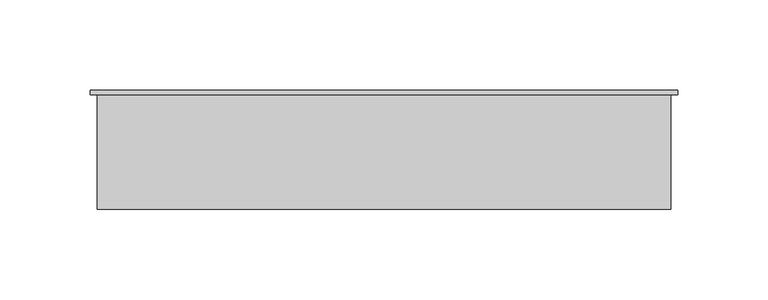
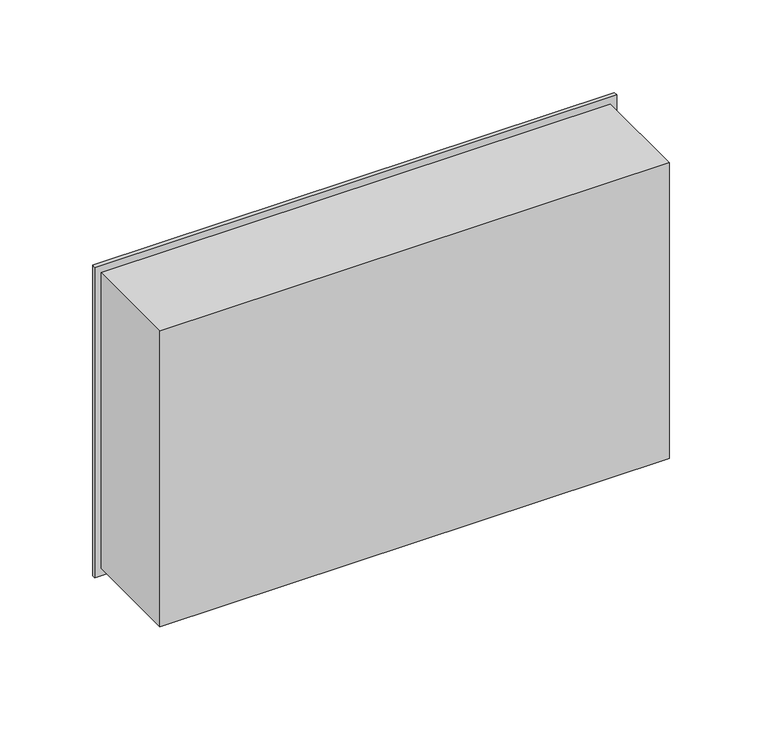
"""IFC4 building model written with IfcOpenShell, lengths in millimetres: proxy geometry, BYRNE^M2X_7 WINDOW-MOVING MODEL."""

from ifc_helpers import new_model, si_unit, point, frame, frame_2d, origin, place, context, project, spatial, polyline, circle_curve, trimmed, segment, composite_curve, outline, extrude, faceted_brep, source, transform, mapped, element, save


def generic_models_c3284a41(model_context):
    return source(origin(), model_context, "Body", "SolidModel", [
        extrude(outline(composite_curve([segment(polyline([(65.88125, 30.4270833), (64.29375, 30.4270833), (64.29375, 32.8083333)]), True, "CONTINUOUS"), segment(trimmed(circle_curve(frame_2d((46.0375, 101.6)), 71.1729167), [point((64.29375, 32.8083333))], [point((27.78125, 32.8083333))], False, "CARTESIAN"), True, "CONTINUOUS"), segment(polyline([(27.78125, 32.8083333), (27.78125, 30.4270833), (24.60625, 30.4270833), (24.60625, 79.6395833), (65.88125, 79.6395833), (65.88125, 30.4270833)]), True, "CONTINUOUS")], self_intersect=False)), frame((28.971875, 0.0, 0.0), z_axis=(1.0, 0.0, 0.0), x_axis=(0.0, 1.0, 0.0)), (0.0, 0.0, 1.0), 260.35),
        extrude(outline(composite_curve([segment(polyline([(64.29375, 164.8354167), (65.88125, 164.8354167), (65.88125, 115.6229167), (24.60625, 115.6229167), (24.60625, 164.8354167), (27.78125, 164.8354167), (27.78125, 162.4541667)]), True, "CONTINUOUS"), segment(trimmed(circle_curve(frame_2d((46.0375, 93.6625)), 71.1729167), [point((27.78125, 162.4541667))], [point((64.29375, 162.4541667))], False, "CARTESIAN"), True, "CONTINUOUS"), segment(polyline([(64.29375, 162.4541667), (64.29375, 164.8354167)]), True, "CONTINUOUS")], self_intersect=False)), frame((28.575, 0.0, 0.0), z_axis=(1.0, 0.0, 0.0), x_axis=(0.0, 1.0, 0.0)), (0.0, 0.0, 1.0), 260.35),
        faceted_brep([(321.46875, 65.88125, -4.7625), (321.46875, 63.5, -4.7625), (-3.96875, 63.5, -4.7625), (-3.96875, 65.88125, -4.7625), (321.46875, 65.88125, 200.025), (321.46875, 63.5, 200.025), (-3.96875, 65.88125, 200.025), (-3.96875, 63.5, 200.025), (0.0, 0.0, 0.0), (317.5, 0.0, 0.0), (317.5, 0.0, 195.2625), (0.0, 0.0, 195.2625), (0.0, 63.5, 195.2625), (0.0, 63.5, 0.0), (317.5, 63.5, 195.2625), (317.5, 63.5, 0.0)], [[[0, 1, 2, 3]], [[1, 0, 4, 5]], [[5, 4, 6, 7]], [[8, 9, 10, 11]], [[0, 3, 6, 4]], [[3, 2, 7, 6]], [[12, 13, 8, 11]], [[14, 12, 11, 10]], [[15, 14, 10, 9]], [[13, 15, 9, 8]], [[1, 5, 7, 2], [13, 12, 14, 15]]]),
    ])


if __name__ == "__main__":
    model = new_model("IFC4")
    model_context = context("Model", 3, world=origin())
    ifc_project = project(units=[si_unit("LENGTHUNIT", "METRE", prefix="MILLI")], contexts=[model_context])
    site = spatial("IfcSite", under=ifc_project)
    building = spatial("IfcBuilding", under=site)
    placement = place(None, origin())
    generic_models_shape = generic_models_c3284a41(model_context)
    element("IfcBuildingElementProxy", 1, Name="BYRNE^M2X_7 WINDOW-MOVING MODEL", ObjectType="BYRNE^M2X_7 WINDOW-MOVING MODEL", at=placement, inside=building, context=model_context, shape_type="MappedRepresentation", body=[
        mapped(generic_models_shape, transform((0.0, 0.0, 0.0), x_axis=(1.0, 0.0, 0.0), y_axis=(0.0, 1.0, 0.0), z_axis=(0.0, 0.0, 1.0))),
    ])
    save(model, "model.ifc")
